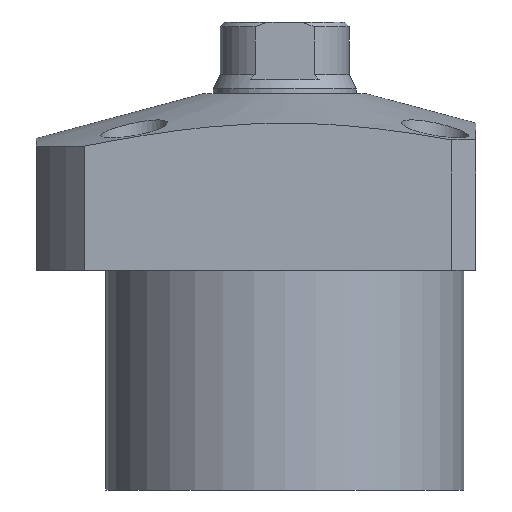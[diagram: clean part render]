
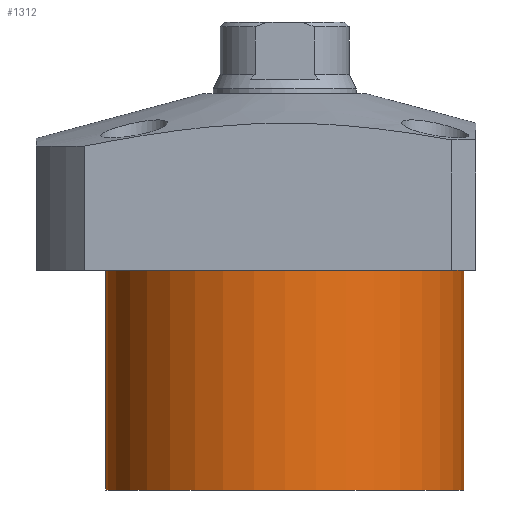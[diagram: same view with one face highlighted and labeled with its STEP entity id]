
A CAD part, front view. The second image highlights one B-rep face of the part: STEP entity #1312.
In plain terms, the highlighted cylindrical face has radius 37.5 mm (diameter 75 mm), a partial arc.
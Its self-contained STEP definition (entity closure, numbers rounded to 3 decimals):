
#7 = CARTESIAN_POINT ( 'NONE',  ( 37.5, 0., -64.5 ) ) ;
#73 = DIRECTION ( 'NONE',  ( 1., 0., 0. ) ) ;
#98 = LINE ( 'NONE', #1781, #2539 ) ;
#124 = EDGE_CURVE ( 'NONE', #1762, #488, #1502, .T. ) ;
#141 = DIRECTION ( 'NONE',  ( -1., 0., 0. ) ) ;
#240 = EDGE_CURVE ( 'NONE', #917, #488, #2241, .T. ) ;
#246 = DIRECTION ( 'NONE',  ( 0., 0., 1. ) ) ;
#488 = VERTEX_POINT ( 'NONE', #1163 ) ;
#513 = AXIS2_PLACEMENT_3D ( 'NONE', #1933, #2112, #141 ) ;
#575 = ORIENTED_EDGE ( 'NONE', *, *, #240, .T. ) ;
#619 = FACE_OUTER_BOUND ( 'NONE', #1256, .T. ) ;
#666 = EDGE_CURVE ( 'NONE', #1043, #1762, #766, .T. ) ;
#670 = DIRECTION ( 'NONE',  ( 0., 0., -1. ) ) ;
#687 = CYLINDRICAL_SURFACE ( 'NONE', #1483, 37.5 ) ;
#766 = CIRCLE ( 'NONE', #513, 37.5 ) ;
#832 = AXIS2_PLACEMENT_3D ( 'NONE', #1861, #670, #73 ) ;
#917 = VERTEX_POINT ( 'NONE', #1303 ) ;
#927 = ORIENTED_EDGE ( 'NONE', *, *, #124, .F. ) ;
#1043 = VERTEX_POINT ( 'NONE', #7 ) ;
#1083 = DIRECTION ( 'NONE',  ( 0., 0., 1. ) ) ;
#1110 = ORIENTED_EDGE ( 'NONE', *, *, #1552, .T. ) ;
#1163 = CARTESIAN_POINT ( 'NONE',  ( -37.5, 0., -18.5 ) ) ;
#1236 = CARTESIAN_POINT ( 'NONE',  ( -37.5, 0., -64.5 ) ) ;
#1256 = EDGE_LOOP ( 'NONE', ( #927, #2314, #1110, #575 ) ) ;
#1303 = CARTESIAN_POINT ( 'NONE',  ( 37.5, 0., -18.5 ) ) ;
#1312 = ADVANCED_FACE ( 'NONE', ( #619 ), #687, .T. ) ;
#1322 = VECTOR ( 'NONE', #246, 1000. ) ;
#1483 = AXIS2_PLACEMENT_3D ( 'NONE', #2086, #1083, #2105 ) ;
#1502 = LINE ( 'NONE', #1236, #1322 ) ;
#1552 = EDGE_CURVE ( 'NONE', #1043, #917, #98, .T. ) ;
#1609 = CARTESIAN_POINT ( 'NONE',  ( -37.5, 0., -64.5 ) ) ;
#1762 = VERTEX_POINT ( 'NONE', #1609 ) ;
#1781 = CARTESIAN_POINT ( 'NONE',  ( 37.5, 0., -64.5 ) ) ;
#1861 = CARTESIAN_POINT ( 'NONE',  ( 0., 0., -18.5 ) ) ;
#1933 = CARTESIAN_POINT ( 'NONE',  ( 0., 0., -64.5 ) ) ;
#1983 = DIRECTION ( 'NONE',  ( 0., 0., 1. ) ) ;
#2086 = CARTESIAN_POINT ( 'NONE',  ( 0., 0., -64.5 ) ) ;
#2105 = DIRECTION ( 'NONE',  ( 1., 0., 0. ) ) ;
#2112 = DIRECTION ( 'NONE',  ( 0., 0., -1. ) ) ;
#2241 = CIRCLE ( 'NONE', #832, 37.5 ) ;
#2314 = ORIENTED_EDGE ( 'NONE', *, *, #666, .F. ) ;
#2539 = VECTOR ( 'NONE', #1983, 1000. ) ;
